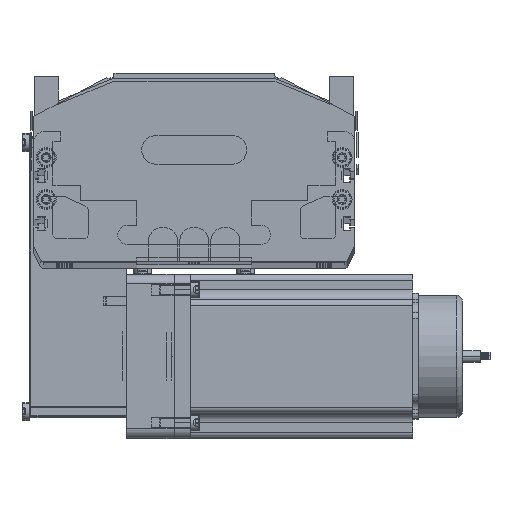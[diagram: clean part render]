
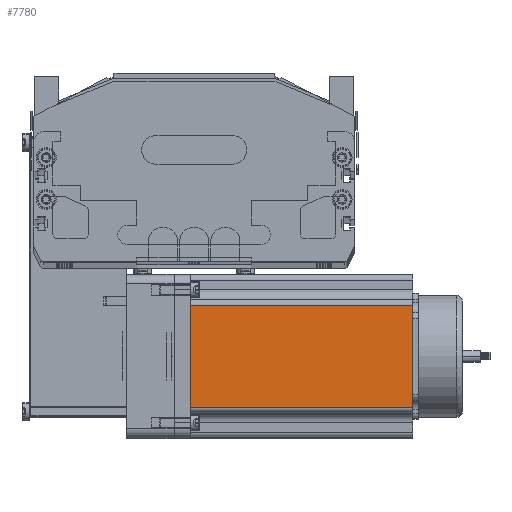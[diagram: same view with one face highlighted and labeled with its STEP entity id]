
A CAD part, top view. The second image highlights one B-rep face of the part: STEP entity #7780.
In plain terms, the highlighted planar face has unit normal (0, 0, 1) as drawn and (0, -1, 0) by its records, which use the part's own axes.
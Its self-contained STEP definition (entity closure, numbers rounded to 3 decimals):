
#7584 = ORIENTED_EDGE ( 'NONE', *, *, #7808, .T. ) ;
#7592 = VERTEX_POINT ( 'NONE', #69221 ) ;
#7595 = EDGE_CURVE ( 'NONE', #7748, #7592, #69281, .T. ) ;
#7599 = ORIENTED_EDGE ( 'NONE', *, *, #7786, .T. ) ;
#7652 = ORIENTED_EDGE ( 'NONE', *, *, #7595, .F. ) ;
#7690 = VERTEX_POINT ( 'NONE', #69830 ) ;
#7748 = VERTEX_POINT ( 'NONE', #47638 ) ;
#7773 = EDGE_LOOP ( 'NONE', ( #7807, #7584, #7652, #7599 ) ) ;
#7780 = ADVANCED_FACE ( 'NONE', ( #43647 ), #43623, .F. ) ;
#7784 = EDGE_CURVE ( 'NONE', #7690, #7785, #43735, .T. ) ;
#7785 = VERTEX_POINT ( 'NONE', #43643 ) ;
#7786 = EDGE_CURVE ( 'NONE', #7748, #7690, #43630, .T. ) ;
#7807 = ORIENTED_EDGE ( 'NONE', *, *, #7784, .T. ) ;
#7808 = EDGE_CURVE ( 'NONE', #7785, #7592, #43695, .T. ) ;
#43618 = AXIS2_PLACEMENT_3D ( 'NONE', #43641, #43640, #43642 ) ;
#43623 = PLANE ( 'NONE',  #43618 ) ;
#43630 = LINE ( 'NONE', #43688, #43687 ) ;
#43640 = DIRECTION ( 'NONE',  ( 0., 1., 0. ) ) ;
#43641 = CARTESIAN_POINT ( 'NONE',  ( 0., 0., 116.5 ) ) ;
#43642 = DIRECTION ( 'NONE',  ( 0., 0., 1. ) ) ;
#43643 = CARTESIAN_POINT ( 'NONE',  ( 69.74, 0., 0. ) ) ;
#43647 = FACE_OUTER_BOUND ( 'NONE', #7773, .T. ) ;
#43682 = DIRECTION ( 'NONE',  ( 0., 0., 1. ) ) ;
#43686 = DIRECTION ( 'NONE',  ( 0., 0., -1. ) ) ;
#43687 = VECTOR ( 'NONE', #43686, 1000. ) ;
#43688 = CARTESIAN_POINT ( 'NONE',  ( 16.16, 0., 116.5 ) ) ;
#43693 = VECTOR ( 'NONE', #43682, 1000. ) ;
#43694 = CARTESIAN_POINT ( 'NONE',  ( 69.74, 0., 116.5 ) ) ;
#43695 = LINE ( 'NONE', #43694, #43693 ) ;
#43732 = DIRECTION ( 'NONE',  ( 1., 0., 0. ) ) ;
#43733 = VECTOR ( 'NONE', #43732, 1000. ) ;
#43734 = CARTESIAN_POINT ( 'NONE',  ( 0., 0., 0. ) ) ;
#43735 = LINE ( 'NONE', #43734, #43733 ) ;
#47638 = CARTESIAN_POINT ( 'NONE',  ( 16.16, 0., 116.5 ) ) ;
#69221 = CARTESIAN_POINT ( 'NONE',  ( 69.74, 0., 116.5 ) ) ;
#69278 = DIRECTION ( 'NONE',  ( 1., 0., 0. ) ) ;
#69279 = VECTOR ( 'NONE', #69278, 1000. ) ;
#69280 = CARTESIAN_POINT ( 'NONE',  ( 0., 0., 116.5 ) ) ;
#69281 = LINE ( 'NONE', #69280, #69279 ) ;
#69830 = CARTESIAN_POINT ( 'NONE',  ( 16.16, 0., 0. ) ) ;
